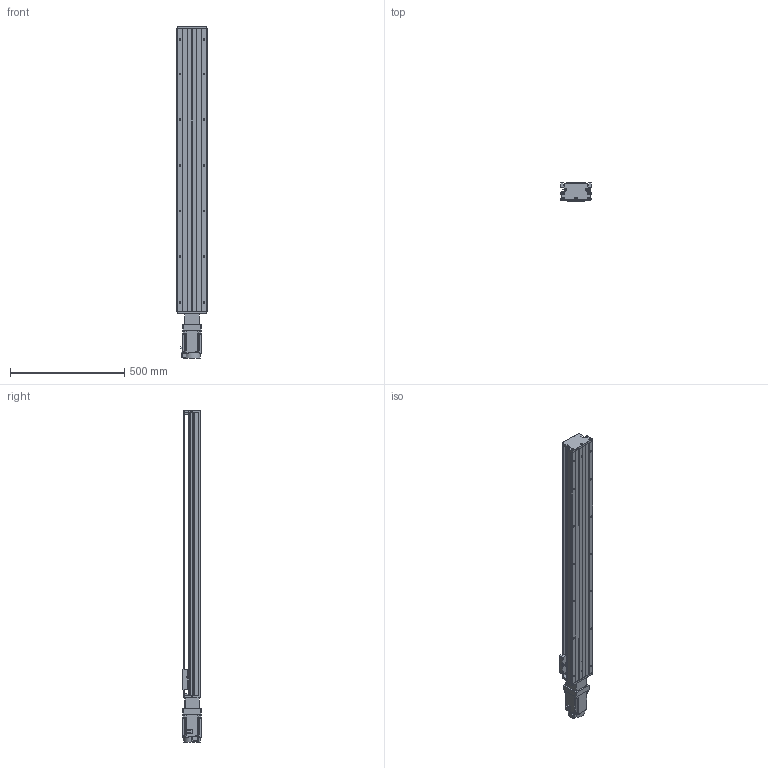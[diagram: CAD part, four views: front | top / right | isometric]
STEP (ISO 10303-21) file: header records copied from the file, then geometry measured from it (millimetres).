
FILE_DESCRIPTION (( 'STEP AP203' ), '1' );
FILE_NAME ('KTH130-1100-BC-M75-C4.step', '2023-06-30T04:16:27', ( '微软用户' ), ( '微软中国' ), 'SwSTEP 2.0', 'SolidWorks 2020', '' );
FILE_SCHEMA (( 'CONFIG_CONTROL_DESIGN' ));
Length unit declared in the file: millimetre
Products named in the file (19): KTH130-004; CTHA60-016; CTHA86-027-1; KTH130-005; GBT 70.1-M3℅5; hg-kn73j_-s100; GB1155-6X6; GBT77-2000 M3×3; KTH130-1100-BC-M75-C4; GBT70.1 M5℅16; す晦芛蹟隊 M3℅5; GBT 70.2-M3¡Á5_M3¡Á6; GBT 70.3-M3℅8; GTH14-001_1100; CTHA60-017; CTHA86-006-1_M75; KTH130-002_KTH130-002; EE_SX911P_R; CTHA86-013
Assembly tree (52 placements, depth 2):
  KTH130-1100-BC-M75-C4
    GTH14-001_1100
    KTH130-002_KTH130-002
    KTH130-004
    KTH130-005
    GB1155-6X6  x2
    GBT70.1 M5℅16  x10
    GBT 70.2-M3¡Á5_M3¡Á6  x4
    CTHA60-017  x3
    EE_SX911P_R  x3
    CTHA60-016  x2
    GBT 70.1-M3℅5  x6
    GBT77-2000 M3×3  x6
    す晦芛蹟隊 M3℅5  x2
    GBT 70.3-M3℅8  x6
    CTHA86-006-1_M75
    CTHA86-013
    CTHA86-027-1
    hg-kn73j_-s100
Bounding box: 135 x 80.44 x 1453.2 mm (x, y, z)
Volume: 7717951.5 mm3; surface area: 1121460.2 mm2
Topology: 55 solids, 55 shells, 2280 faces, 5480 edges, 3415 vertices
Faces by surface type: plane 1246, cylinder 638, cone 280, torus 104, sphere 12
Entity records: 40770 total; most frequent: DIRECTION 6731, CARTESIAN_POINT 6731, ORIENTED_EDGE 6244, EDGE_CURVE 3122, AXIS2_PLACEMENT_3D 2351, VECTOR 2029, LINE 2029, VERTEX_POINT 1987
